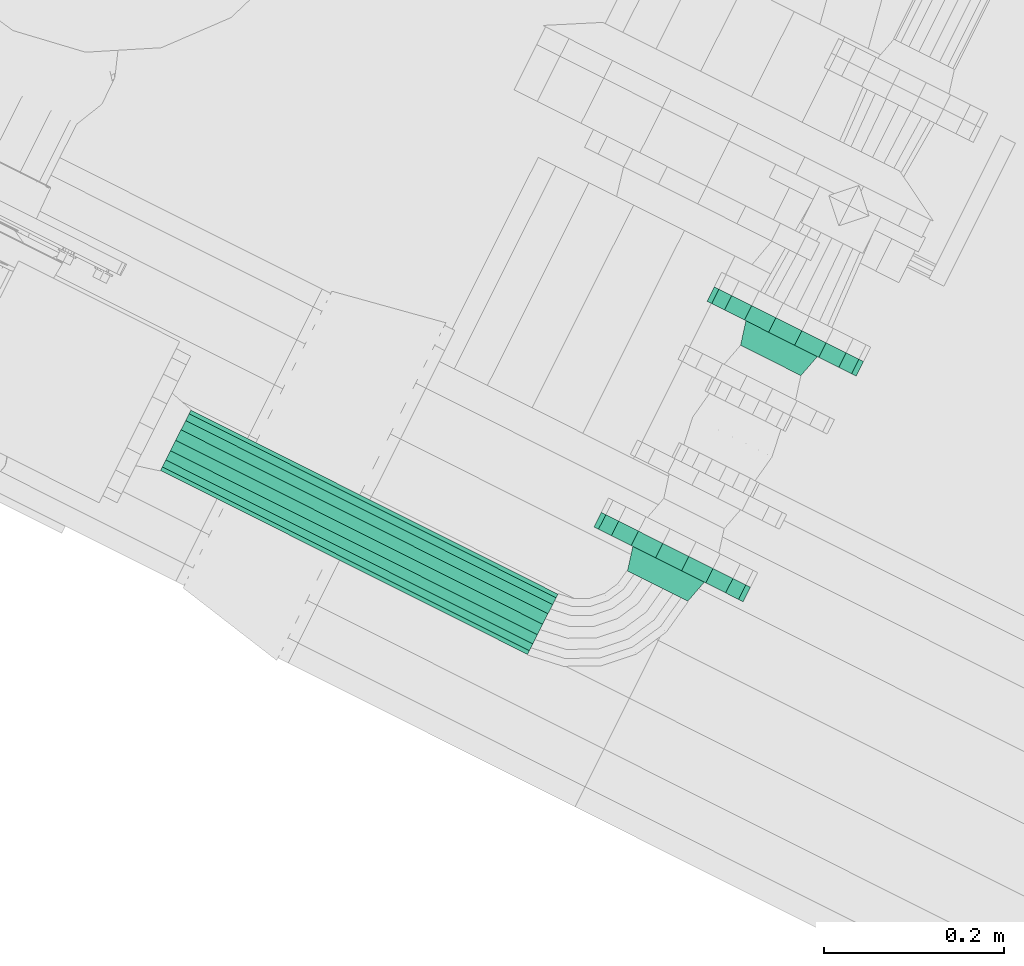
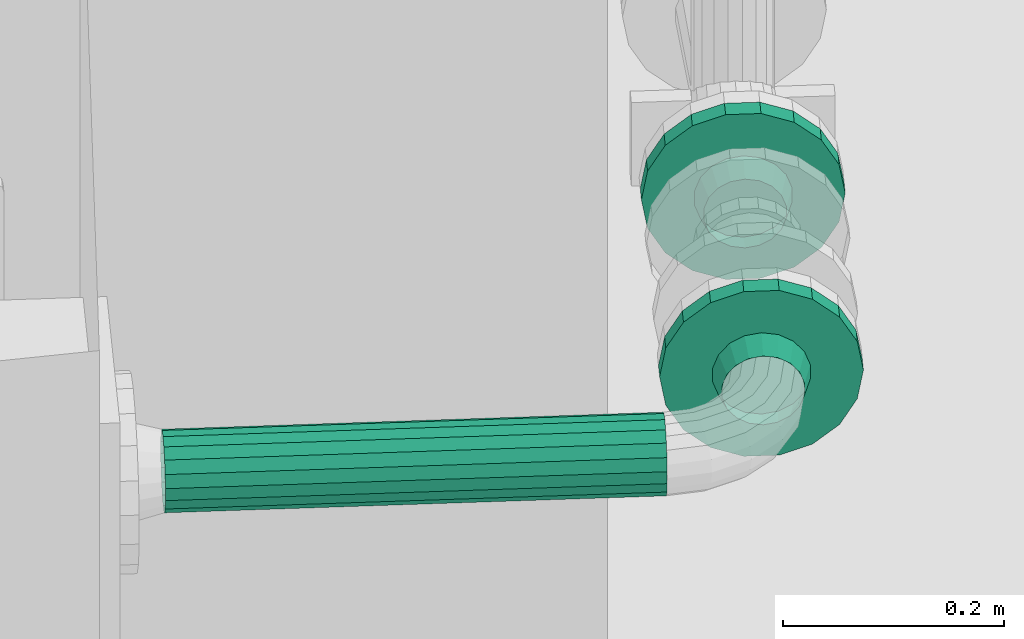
# One storey, part 59 of 206: 2 flow fittings, 1 flow segment.
"""IFC2X3 building model written with IfcOpenShell, lengths in metres."""

from ifc_helpers import new_model, si_unit, derived_unit, direction, frame, origin, place, context, subcontext, project, spatial, face_set, surface_model, source, transform, mapped, material, type_object, type_shapes, element, save


model = new_model("IFC2X3")

# Units and contexts
model_context = context("Model", 3, precision=5.2338327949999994e-05, world=origin(), true_north=direction((0.0, 1.0)))
body_context = subcontext(model_context, "Body", "Model", "MODEL_VIEW")
ifc_project = project(units=[si_unit("LENGTHUNIT", "METRE"), si_unit("AREAUNIT", "SQUARE_METRE"), si_unit("VOLUMEUNIT", "CUBIC_METRE"), si_unit("MASSUNIT", "GRAM", prefix="KILO"), si_unit("PLANEANGLEUNIT", "RADIAN"), derived_unit("THERMALTRANSMITTANCEUNIT", [(si_unit("MASSUNIT", "GRAM", prefix="KILO"), 1), (si_unit("THERMODYNAMICTEMPERATUREUNIT", "KELVIN"), -1), (si_unit("TIMEUNIT", "SECOND"), -3)])], contexts=[model_context])

# Site, building, storey
site_placement = place(None, frame((0.0, 0.0, 0.0), z_axis=(0.0, 0.0, 1.0), x_axis=(0.8939966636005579, -0.4480736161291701, 0.0)))
site = spatial("IfcSite", under=ifc_project, at=site_placement, Name="Default", CompositionType="ELEMENT")
building_placement = place(site_placement, origin())
building = spatial("IfcBuilding", under=site, at=building_placement, CompositionType="ELEMENT")
storey_placement = place(building_placement, origin())
storey = spatial("IfcBuildingStorey", under=building, at=storey_placement, Name="Erdgeschoss", CompositionType="ELEMENT", Elevation=0.0)

# Flow fittings
ifc_material = material(Name="IfcSurfaceStyle #352577")
distribution_element_type_1 = type_object("IfcDistributionElementType", Name="Flansch 359743:Flansch 359743", material=ifc_material)
shared_shape_1 = source(origin(), body_context, "Body", "SurfaceModel", [
    surface_model("IfcFaceBasedSurfaceModel", [(25.090640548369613, 4.922958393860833, 0.908049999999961), (25.10365441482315, 4.92295839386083, 0.9057553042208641), (25.10603145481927, 4.949958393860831, 0.9122861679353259), (25.090640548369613, 4.949958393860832, 0.9149999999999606), (25.115098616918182, 4.92295839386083, 0.8991479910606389), (25.11956599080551, 4.949958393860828, 0.9044719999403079), (25.123592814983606, 4.92295839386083, 0.8890249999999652), (25.129611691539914, 4.949958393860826, 0.8924999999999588), (25.12811248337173, 4.922958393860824, 0.8766073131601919), (25.134956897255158, 4.949958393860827, 0.8778141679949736), (25.128112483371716, 4.922958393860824, 0.8633926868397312), (25.134956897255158, 4.9499583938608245, 0.8621858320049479), (25.12359281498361, 4.922958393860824, 0.8509749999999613), (25.129611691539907, 4.9499583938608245, 0.8474999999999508), (25.115098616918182, 4.922958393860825, 0.8408520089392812), (25.1195659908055, 4.949958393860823, 0.835528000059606), (25.103654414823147, 4.9229583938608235, 0.8342446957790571), (25.10603145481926, 4.949958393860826, 0.8277138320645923), (25.090640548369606, 4.922958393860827, 0.8319499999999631), (25.090640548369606, 4.949958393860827, 0.8249999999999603), (25.077626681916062, 4.922958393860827, 0.8342446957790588), (25.07524964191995, 4.949958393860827, 0.8277138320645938), (25.066182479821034, 4.922958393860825, 0.8408520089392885), (25.06171510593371, 4.949958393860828, 0.8355280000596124), (25.05768828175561, 4.92295839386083, 0.8509749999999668), (25.05166940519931, 4.949958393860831, 0.8474999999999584), (25.053168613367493, 4.922958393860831, 0.8633926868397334), (25.046324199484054, 4.949958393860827, 0.8621858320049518), (25.0531686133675, 4.922958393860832, 0.8766073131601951), (25.04632419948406, 4.949958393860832, 0.8778141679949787), (25.05768828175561, 4.922958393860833, 0.8890249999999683), (25.051669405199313, 4.9499583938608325, 0.8924999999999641), (25.066182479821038, 4.922958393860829, 0.8991479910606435), (25.061715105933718, 4.949958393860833, 0.9044719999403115), (25.077626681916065, 4.922958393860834, 0.9057553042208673), (25.075249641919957, 4.949958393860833, 0.9122861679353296), (25.18314054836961, 4.949958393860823, 0.8699999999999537), (25.177562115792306, 4.949958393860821, 0.8383631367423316), (25.177562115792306, 4.967958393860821, 0.8383631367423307), (25.18314054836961, 4.9679583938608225, 0.8699999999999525), (25.161499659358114, 4.949958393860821, 0.8105421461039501), (25.161499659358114, 4.967958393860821, 0.8105421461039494), (25.136890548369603, 4.949958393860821, 0.7898926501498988), (25.136890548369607, 4.96795839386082, 0.7898926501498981), (25.10670300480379, 4.949958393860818, 0.778905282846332), (25.10670300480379, 4.967958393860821, 0.7789052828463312), (25.07457809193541, 4.949958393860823, 0.7789052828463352), (25.07457809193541, 4.9679583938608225, 0.7789052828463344), (25.044390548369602, 4.9499583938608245, 0.7898926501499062), (25.044390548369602, 4.967958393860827, 0.7898926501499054), (25.0197814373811, 4.949958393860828, 0.8105421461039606), (25.0197814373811, 4.967958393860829, 0.8105421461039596), (25.00371898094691, 4.949958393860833, 0.8383631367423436), (25.00371898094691, 4.967958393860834, 0.838363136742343), (24.99814054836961, 4.949958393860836, 0.8699999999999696), (24.998140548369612, 4.967958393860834, 0.8699999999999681), (25.003718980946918, 4.949958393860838, 0.901636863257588), (25.003718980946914, 4.9679583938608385, 0.9016368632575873), (25.01978143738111, 4.949958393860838, 0.9294578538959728), (25.01978143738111, 4.9679583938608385, 0.929457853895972), (25.04439054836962, 4.949958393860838, 0.9501073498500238), (25.044390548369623, 4.967958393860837, 0.9501073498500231), (25.074578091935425, 4.949958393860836, 0.9610947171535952), (25.074578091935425, 4.967958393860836, 0.9610947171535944), (25.10670300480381, 4.949958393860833, 0.9610947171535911), (25.10670300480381, 4.967958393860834, 0.9610947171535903), (25.13689054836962, 4.949958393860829, 0.950107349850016), (25.13689054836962, 4.967958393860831, 0.9501073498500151), (25.161499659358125, 4.949958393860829, 0.9294578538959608), (25.161499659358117, 4.96795839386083, 0.9294578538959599), (25.17756211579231, 4.9499583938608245, 0.9016368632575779), (25.17756211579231, 4.967958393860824, 0.9016368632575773), (25.090640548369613, 4.949958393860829, 0.8699999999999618)], [face_set([[[0, 1, 2, 3]], [[1, 4, 5, 2]], [[4, 6, 7, 5]], [[6, 8, 9, 7]], [[8, 10, 11, 9]], [[10, 12, 13, 11]], [[12, 14, 15, 13]], [[14, 16, 17, 15]], [[16, 18, 19, 17]], [[18, 20, 21, 19]], [[20, 22, 23, 21]], [[22, 24, 25, 23]], [[24, 26, 27, 25]], [[26, 28, 29, 27]], [[28, 30, 31, 29]], [[30, 32, 33, 31]], [[32, 34, 35, 33]], [[34, 0, 3, 35]], [[36, 37, 38, 39]], [[37, 40, 41, 38]], [[40, 42, 43, 41]], [[42, 44, 45, 43]], [[44, 46, 47, 45]], [[46, 48, 49, 47]], [[48, 50, 51, 49]], [[50, 52, 53, 51]], [[52, 54, 55, 53]], [[54, 56, 57, 55]], [[56, 58, 59, 57]], [[58, 60, 61, 59]], [[60, 62, 63, 61]], [[62, 64, 65, 63]], [[64, 66, 67, 65]], [[66, 68, 69, 67]], [[68, 70, 71, 69]], [[70, 36, 39, 71]], [[72, 37, 36]], [[72, 40, 37]], [[72, 42, 40]], [[72, 44, 42]], [[72, 46, 44]], [[72, 48, 46]], [[72, 50, 48]], [[72, 52, 50]], [[72, 54, 52]], [[72, 56, 54]], [[72, 58, 56]], [[72, 60, 58]], [[72, 62, 60]], [[72, 64, 62]], [[72, 66, 64]], [[72, 68, 66]], [[72, 70, 68]], [[72, 36, 70]]])]),
])
type_shapes(distribution_element_type_1, [shared_shape_1])
flow_fitting_1_placement = place(storey_placement, origin())
element("IfcFlowFitting", 1, at=flow_fitting_1_placement, inside=storey, type_object=distribution_element_type_1, material=ifc_material, Name="Flansch", ObjectType="Flansch", context=body_context, shape_type="MappedRepresentation", body=[
    mapped(shared_shape_1, transform((0.0, 0.0, 0.0), scale=1.0)),
])
distribution_element_type_2 = type_object("IfcDistributionElementType", Name="Flansch 360828:Flansch 360828", material=ifc_material)
shared_shape_2 = source(origin(), body_context, "Body", "SurfaceModel", [
    surface_model("IfcFaceBasedSurfaceModel", [(25.090640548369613, 5.2029583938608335, 0.9080499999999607), (25.10365441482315, 5.202958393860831, 0.9057553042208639), (25.10603145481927, 5.229958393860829, 0.9122861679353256), (25.090640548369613, 5.229958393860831, 0.9149999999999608), (25.115098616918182, 5.202958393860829, 0.8991479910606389), (25.11956599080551, 5.229958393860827, 0.9044719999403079), (25.12359281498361, 5.202958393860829, 0.889024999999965), (25.129611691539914, 5.229958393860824, 0.8924999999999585), (25.12811248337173, 5.202958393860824, 0.8766073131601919), (25.134956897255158, 5.2299583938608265, 0.8778141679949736), (25.128112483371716, 5.202958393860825, 0.8633926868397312), (25.134956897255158, 5.229958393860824, 0.8621858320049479), (25.12359281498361, 5.202958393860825, 0.8509749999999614), (25.129611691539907, 5.229958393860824, 0.847499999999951), (25.115098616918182, 5.202958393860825, 0.8408520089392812), (25.1195659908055, 5.229958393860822, 0.835528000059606), (25.103654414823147, 5.202958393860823, 0.8342446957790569), (25.10603145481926, 5.229958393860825, 0.8277138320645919), (25.090640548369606, 5.2029583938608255, 0.8319499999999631), (25.090640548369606, 5.2299583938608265, 0.8249999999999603), (25.077626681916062, 5.2029583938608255, 0.8342446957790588), (25.07524964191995, 5.2299583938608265, 0.8277138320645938), (25.066182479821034, 5.202958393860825, 0.8408520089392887), (25.06171510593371, 5.229958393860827, 0.8355280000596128), (25.05768828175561, 5.202958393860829, 0.8509749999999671), (25.05166940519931, 5.229958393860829, 0.8474999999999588), (25.053168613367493, 5.20295839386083, 0.8633926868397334), (25.046324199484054, 5.2299583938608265, 0.8621858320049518), (25.0531686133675, 5.202958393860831, 0.8766073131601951), (25.04632419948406, 5.229958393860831, 0.8778141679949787), (25.05768828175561, 5.202958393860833, 0.8890249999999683), (25.051669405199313, 5.229958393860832, 0.8924999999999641), (25.066182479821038, 5.20295839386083, 0.8991479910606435), (25.061715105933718, 5.229958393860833, 0.9044719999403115), (25.077626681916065, 5.2029583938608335, 0.9057553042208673), (25.075249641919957, 5.229958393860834, 0.9122861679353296), (25.18314054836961, 5.229958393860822, 0.8699999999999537), (25.177562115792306, 5.229958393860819, 0.8383631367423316), (25.177562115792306, 5.24795839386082, 0.8383631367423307), (25.18314054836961, 5.247958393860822, 0.8699999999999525), (25.161499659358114, 5.229958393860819, 0.8105421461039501), (25.161499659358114, 5.24795839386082, 0.8105421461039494), (25.136890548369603, 5.229958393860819, 0.7898926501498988), (25.136890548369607, 5.247958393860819, 0.7898926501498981), (25.10670300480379, 5.229958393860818, 0.778905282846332), (25.10670300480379, 5.24795839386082, 0.7789052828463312), (25.07457809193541, 5.229958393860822, 0.7789052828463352), (25.07457809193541, 5.247958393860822, 0.7789052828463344), (25.044390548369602, 5.229958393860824, 0.7898926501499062), (25.044390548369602, 5.247958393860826, 0.7898926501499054), (25.0197814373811, 5.229958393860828, 0.8105421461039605), (25.0197814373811, 5.247958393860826, 0.8105421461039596), (25.00371898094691, 5.229958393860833, 0.8383631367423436), (25.00371898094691, 5.2479583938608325, 0.838363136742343), (24.99814054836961, 5.2299583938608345, 0.8699999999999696), (24.998140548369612, 5.2479583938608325, 0.8699999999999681), (25.003718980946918, 5.229958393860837, 0.901636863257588), (25.003718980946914, 5.247958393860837, 0.9016368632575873), (25.01978143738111, 5.229958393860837, 0.9294578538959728), (25.01978143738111, 5.247958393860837, 0.929457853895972), (25.04439054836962, 5.229958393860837, 0.9501073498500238), (25.044390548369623, 5.247958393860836, 0.9501073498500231), (25.074578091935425, 5.2299583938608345, 0.9610947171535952), (25.074578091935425, 5.247958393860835, 0.9610947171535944), (25.10670300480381, 5.229958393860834, 0.9610947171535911), (25.10670300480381, 5.2479583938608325, 0.9610947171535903), (25.13689054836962, 5.229958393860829, 0.950107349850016), (25.13689054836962, 5.247958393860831, 0.950107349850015), (25.161499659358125, 5.229958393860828, 0.9294578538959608), (25.161499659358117, 5.247958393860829, 0.9294578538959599), (25.17756211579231, 5.229958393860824, 0.9016368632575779), (25.17756211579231, 5.247958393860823, 0.9016368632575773), (25.090640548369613, 5.229958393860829, 0.8699999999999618)], [face_set([[[0, 1, 2, 3]], [[1, 4, 5, 2]], [[4, 6, 7, 5]], [[6, 8, 9, 7]], [[8, 10, 11, 9]], [[10, 12, 13, 11]], [[12, 14, 15, 13]], [[14, 16, 17, 15]], [[16, 18, 19, 17]], [[18, 20, 21, 19]], [[20, 22, 23, 21]], [[22, 24, 25, 23]], [[24, 26, 27, 25]], [[26, 28, 29, 27]], [[28, 30, 31, 29]], [[30, 32, 33, 31]], [[32, 34, 35, 33]], [[34, 0, 3, 35]], [[36, 37, 38, 39]], [[37, 40, 41, 38]], [[40, 42, 43, 41]], [[42, 44, 45, 43]], [[44, 46, 47, 45]], [[46, 48, 49, 47]], [[48, 50, 51, 49]], [[50, 52, 53, 51]], [[52, 54, 55, 53]], [[54, 56, 57, 55]], [[56, 58, 59, 57]], [[58, 60, 61, 59]], [[60, 62, 63, 61]], [[62, 64, 65, 63]], [[64, 66, 67, 65]], [[66, 68, 69, 67]], [[68, 70, 71, 69]], [[70, 36, 39, 71]], [[72, 37, 36]], [[72, 40, 37]], [[72, 42, 40]], [[72, 44, 42]], [[72, 46, 44]], [[72, 48, 46]], [[72, 50, 48]], [[72, 52, 50]], [[72, 54, 52]], [[72, 56, 54]], [[72, 58, 56]], [[72, 60, 58]], [[72, 62, 60]], [[72, 64, 62]], [[72, 66, 64]], [[72, 68, 66]], [[72, 70, 68]], [[72, 36, 70]]])]),
])
type_shapes(distribution_element_type_2, [shared_shape_2])
flow_fitting_2_placement = place(storey_placement, origin())
element("IfcFlowFitting", 2, at=flow_fitting_2_placement, inside=storey, type_object=distribution_element_type_2, material=ifc_material, Name="Flansch", ObjectType="Flansch", context=body_context, shape_type="MappedRepresentation", body=[
    mapped(shared_shape_2, transform((0.0, 0.0, 0.0), scale=1.0)),
])

# Flow segment
distribution_element_type_3 = type_object("IfcDistributionElementType", Name="Stahlrohr nach DIN 2448 602960:Stahlrohr nach DIN 2448 602960", material=ifc_material)
shared_shape_3 = source(origin(), body_context, "Body", "SurfaceModel", [
    surface_model("IfcFaceBasedSurfaceModel", [(24.995640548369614, 4.827958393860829, 0.908049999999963), (24.995640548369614, 4.840972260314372, 0.9057553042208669), (24.540145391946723, 4.840972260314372, 0.9057553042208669), (24.540145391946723, 4.82795839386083, 0.9080499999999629), (24.995640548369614, 4.8524164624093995, 0.8991479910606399), (24.540145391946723, 4.852416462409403, 0.8991479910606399), (24.995640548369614, 4.860910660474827, 0.8890249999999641), (24.540145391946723, 4.860910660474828, 0.8890249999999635), (24.995640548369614, 4.865430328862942, 0.8766073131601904), (24.540145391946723, 4.865430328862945, 0.8766073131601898), (24.995640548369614, 4.865430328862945, 0.8633926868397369), (24.540145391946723, 4.865430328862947, 0.8633926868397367), (24.995640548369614, 4.860910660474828, 0.850974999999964), (24.540145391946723, 4.860910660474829, 0.8509749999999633), (24.995640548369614, 4.852416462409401, 0.8408520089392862), (24.540145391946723, 4.852416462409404, 0.8408520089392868), (24.995640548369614, 4.840972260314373, 0.8342446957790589), (24.540145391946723, 4.840972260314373, 0.8342446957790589), (24.995640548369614, 4.827958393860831, 0.8319499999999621), (24.540145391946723, 4.827958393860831, 0.8319499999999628), (24.995640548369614, 4.814944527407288, 0.8342446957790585), (24.540145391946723, 4.814944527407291, 0.8342446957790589), (24.995640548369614, 4.803500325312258, 0.8408520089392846), (24.540145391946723, 4.803500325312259, 0.8408520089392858), (24.995640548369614, 4.7950061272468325, 0.8509749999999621), (24.540145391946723, 4.795006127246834, 0.8509749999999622), (24.995640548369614, 4.790486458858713, 0.8633926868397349), (24.540145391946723, 4.790486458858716, 0.8633926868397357), (24.995640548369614, 4.790486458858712, 0.8766073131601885), (24.540145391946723, 4.790486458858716, 0.8766073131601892), (24.995640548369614, 4.79500612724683, 0.8890249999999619), (24.540145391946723, 4.7950061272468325, 0.8890249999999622), (24.995640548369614, 4.803500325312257, 0.899147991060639), (24.540145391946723, 4.803500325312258, 0.8991479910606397), (24.995640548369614, 4.814944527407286, 0.9057553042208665), (24.540145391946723, 4.814944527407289, 0.9057553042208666)], [face_set([[[0, 1, 2, 3]], [[1, 4, 5, 2]], [[4, 6, 7, 5]], [[6, 8, 9, 7]], [[8, 10, 11, 9]], [[10, 12, 13, 11]], [[12, 14, 15, 13]], [[14, 16, 17, 15]], [[16, 18, 19, 17]], [[18, 20, 21, 19]], [[20, 22, 23, 21]], [[22, 24, 25, 23]], [[24, 26, 27, 25]], [[26, 28, 29, 27]], [[28, 30, 31, 29]], [[30, 32, 33, 31]], [[32, 34, 35, 33]], [[34, 0, 3, 35]]])]),
])
type_shapes(distribution_element_type_3, [shared_shape_3])
flow_segment_placement = place(storey_placement, origin())
element("IfcFlowSegment", 3, at=flow_segment_placement, inside=storey, type_object=distribution_element_type_3, material=ifc_material, Name="Stahlrohr nach DIN 2448", ObjectType="Stahlrohr nach DIN 2448", context=body_context, shape_type="MappedRepresentation", body=[
    mapped(shared_shape_3, transform((0.0, 0.0, 0.0), scale=1.0)),
])

save(model, "model.ifc")
